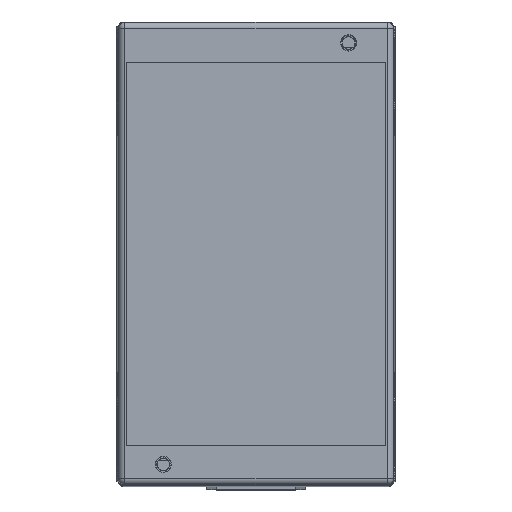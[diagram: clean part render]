
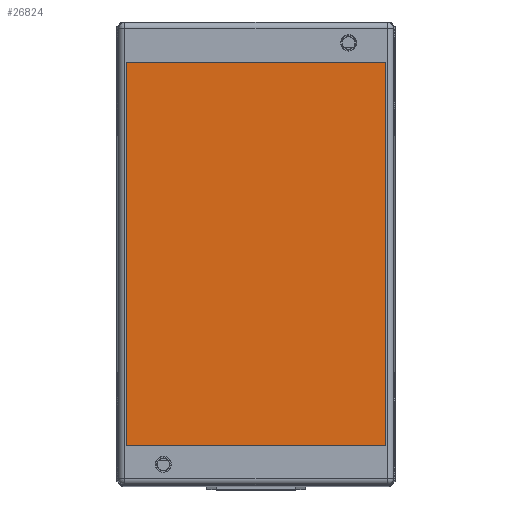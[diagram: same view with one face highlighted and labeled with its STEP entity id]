
A CAD part, top view. The second image highlights one B-rep face of the part: STEP entity #26824.
In plain terms, the highlighted planar face has unit normal (0, 0, 1) as drawn and (0, 0, -1) by its records, which use the part's own axes.
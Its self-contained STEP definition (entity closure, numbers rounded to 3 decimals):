
#1164=PLANE('',#28849);
#2484=FACE_OUTER_BOUND('',#3992,.T.);
#3992=EDGE_LOOP('',(#23321,#23322,#23323,#23324));
#7404=LINE('',#42773,#10444);
#7405=LINE('',#42776,#10445);
#7406=LINE('',#42778,#10446);
#7407=LINE('',#42779,#10447);
#10444=VECTOR('',#34731,4.2);
#10445=VECTOR('',#34734,6.2);
#10446=VECTOR('',#34735,6.2);
#10447=VECTOR('',#34736,4.2);
#13140=VERTEX_POINT('',#42769);
#13141=VERTEX_POINT('',#42771);
#13142=VERTEX_POINT('',#42775);
#13143=VERTEX_POINT('',#42777);
#16655=EDGE_CURVE('',#13141,#13140,#7404,.T.);
#16656=EDGE_CURVE('',#13140,#13142,#7405,.T.);
#16657=EDGE_CURVE('',#13143,#13141,#7406,.T.);
#16658=EDGE_CURVE('',#13143,#13142,#7407,.T.);
#23321=ORIENTED_EDGE('',*,*,#16656,.F.);
#23322=ORIENTED_EDGE('',*,*,#16655,.F.);
#23323=ORIENTED_EDGE('',*,*,#16657,.F.);
#23324=ORIENTED_EDGE('',*,*,#16658,.T.);
#26824=ADVANCED_FACE('',(#2484),#1164,.F.);
#28849=AXIS2_PLACEMENT_3D('',#42774,#34732,#34733);
#34731=DIRECTION('',(-1.,0.,0.));
#34732=DIRECTION('center_axis',(0.,0.,1.));
#34733=DIRECTION('ref_axis',(1.,0.,0.));
#34734=DIRECTION('',(0.,-1.,0.));
#34735=DIRECTION('',(0.,1.,0.));
#34736=DIRECTION('',(-1.,0.,0.));
#42769=CARTESIAN_POINT('',(42.641,7.96,0.1));
#42771=CARTESIAN_POINT('',(46.841,7.96,0.1));
#42773=CARTESIAN_POINT('',(46.841,7.96,0.1));
#42774=CARTESIAN_POINT('Origin',(44.741,7.96,0.1));
#42775=CARTESIAN_POINT('',(42.641,1.76,0.1));
#42776=CARTESIAN_POINT('',(42.641,7.96,0.1));
#42777=CARTESIAN_POINT('',(46.841,1.76,0.1));
#42778=CARTESIAN_POINT('',(46.841,1.76,0.1));
#42779=CARTESIAN_POINT('',(46.841,1.76,0.1));
